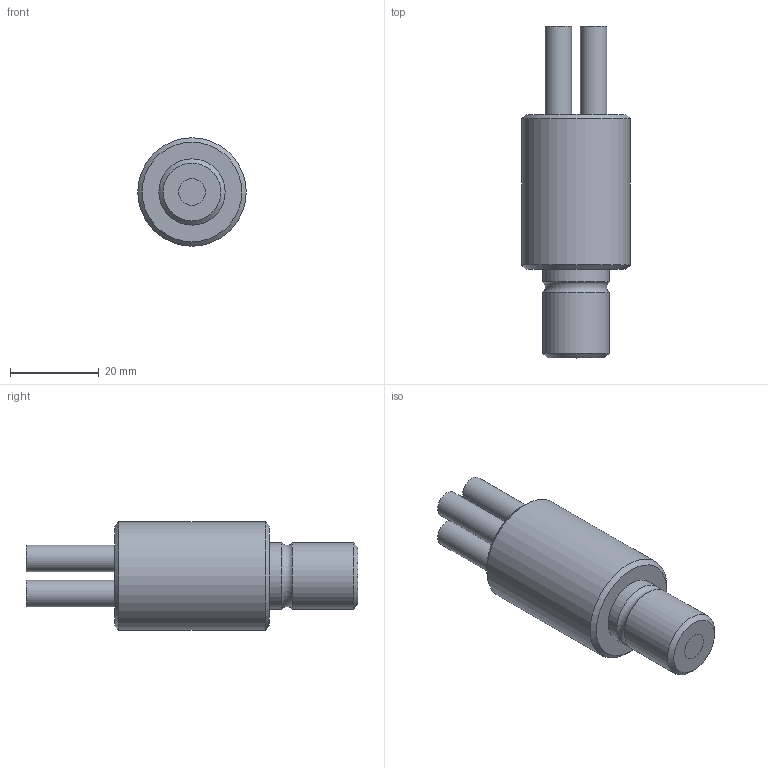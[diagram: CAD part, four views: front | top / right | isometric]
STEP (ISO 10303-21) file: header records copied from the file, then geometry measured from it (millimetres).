
FILE_DESCRIPTION(/* description */ (''),/* implementation_level */ '2;1');
FILE_NAME(/* name */ '',/* time_stamp */ '2023-05-29T11:53:59+09:00',/* author */ (''),/* organization */ (''),/* preprocessor_version */ 'ST-DEVELOPER v19.2',/* originating_system */ 'Autodesk Translation Framework v11.17.0.187',/* authorisation */ '');
FILE_SCHEMA (('AUTOMOTIVE_DESIGN { 1 0 10303 214 3 1 1 }'));
Length unit declared in the file: millimetre
Products named in the file (1): LGC4-3L 共通受光部
Bounding box: 24.5 x 75 x 24.5 mm (x, y, z)
Volume: 22153.2 mm3; surface area: 8521.3 mm2
Topology: 10 solids, 10 shells, 43 faces, 58 edges, 37 vertices
Faces by surface type: plane 22, cylinder 17, cone 3, torus 1
Full cylindrical faces by diameter (mm): 3 x8, 6 x6, 15 x2, 24.5 x1
Entity records: 950 total; most frequent: DIRECTION 184, CARTESIAN_POINT 139, ORIENTED_EDGE 116, AXIS2_PLACEMENT_3D 82, EDGE_CURVE 58, EDGE_LOOP 53, FACE_OUTER_BOUND 43, ADVANCED_FACE 43
